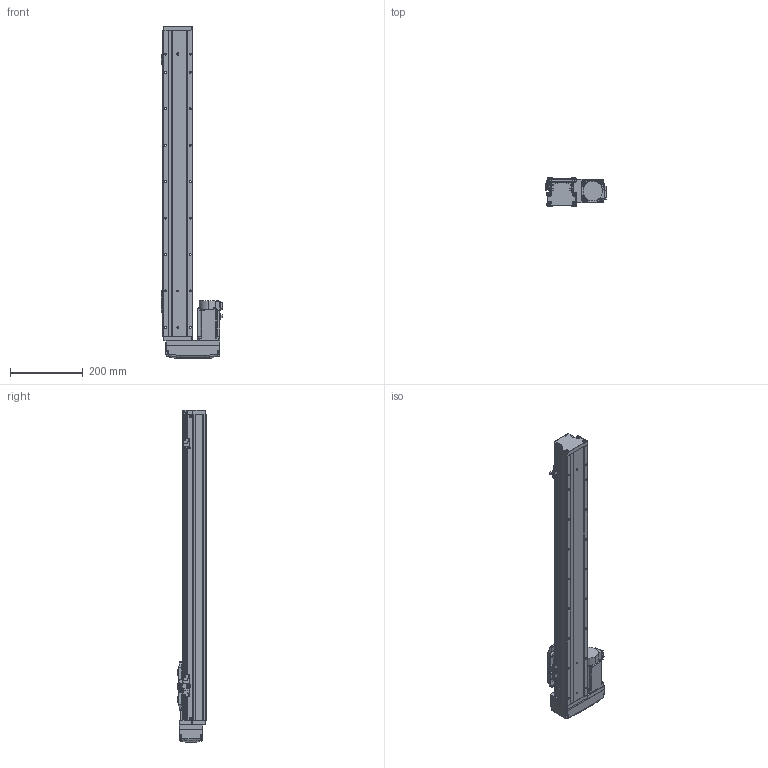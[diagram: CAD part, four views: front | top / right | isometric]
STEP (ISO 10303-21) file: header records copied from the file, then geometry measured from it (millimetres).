
FILE_DESCRIPTION (( 'STEP AP203' ), '1' );
FILE_NAME ('GTH8-650-BR-M20-C4.step', '2022-09-23T01:11:04', ( '微软用户' ), ( '微软中国' ), 'SwSTEP 2.0', 'SolidWorks 2020', '' );
FILE_SCHEMA (( 'CONFIG_CONTROL_DESIGN' ));
Length unit declared in the file: millimetre
Products named in the file (18): GTH80-028; CTHA86-033_M40B; GTH80-006; GTH50-024; GTH8-650-BR-M20-C4; GTH80-013; GTH50-023; GBT 70.3-M3℅6; GBT96.1-2002 3×0.8; GTH80-022; BTH-M3X5X6; GTH80-001_650; GBT 70.1-M3℅6; hg-kn43j_-s100_; GTH80-003; GBT 70.1-M4×16; CTHA86-015-1_CTHA86-015-2; GTH80-004
Assembly tree (57 placements, depth 2):
  GTH8-650-BR-M20-C4
    GTH80-001_650
    GTH80-003
    GTH80-004
    GTH80-006
    GTH80-013
    GBT 70.3-M3℅6  x4
    GTH80-022
    GBT 70.1-M3℅6  x14
    GBT 70.1-M4×16  x8
    GTH80-028  x2
    GTH50-024  x3
    GTH50-023  x3
    GBT96.1-2002 3×0.8  x6
    BTH-M3X5X6  x8
    hg-kn43j_-s100_
    CTHA86-015-1_CTHA86-015-2
    CTHA86-033_M40B
Bounding box: 169.7 x 78 x 911 mm (x, y, z)
Volume: 4626014 mm3; surface area: 480445.5 mm2
Topology: 59 solids, 59 shells, 2244 faces, 5187 edges, 3179 vertices
Faces by surface type: plane 1187, cylinder 615, cone 260, torus 166, bspline 8, sphere 8
Entity records: 41070 total; most frequent: CARTESIAN_POINT 7217, DIRECTION 6677, ORIENTED_EDGE 6192, EDGE_CURVE 3096, AXIS2_PLACEMENT_3D 2337, LINE 2003, VECTOR 2003, VERTEX_POINT 1954
